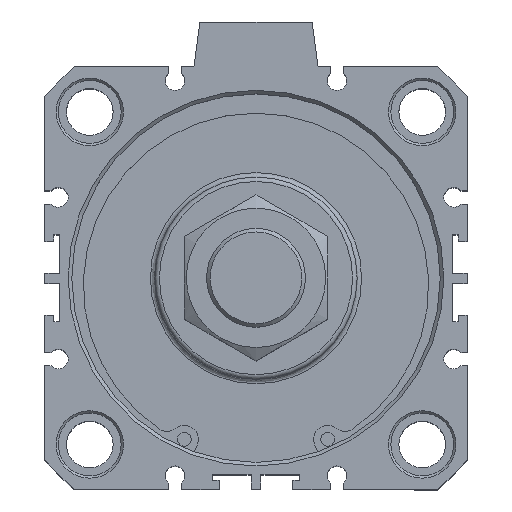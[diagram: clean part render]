
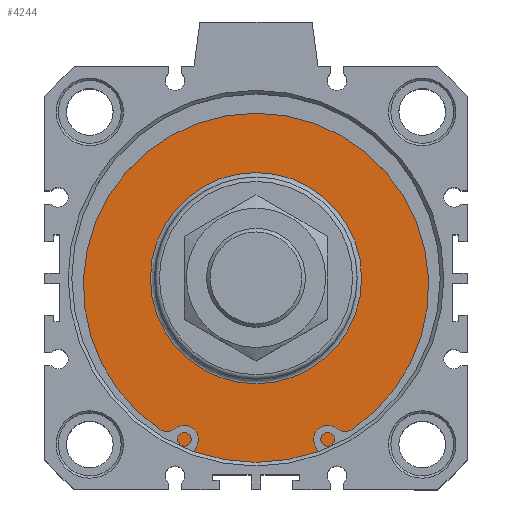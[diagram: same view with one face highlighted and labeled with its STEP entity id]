
A CAD part, top view. The second image highlights one B-rep face of the part: STEP entity #4244.
In plain terms, the highlighted planar face has unit normal (0, 0, 1).
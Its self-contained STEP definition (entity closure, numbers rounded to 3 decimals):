
#4193=CARTESIAN_POINT('',(2.632,21.227,75.6));
#4194=VERTEX_POINT('',#4193);
#4195=CARTESIAN_POINT('',(2.632,-2.273,75.6));
#4196=DIRECTION('',(0.0,0.0,1.0));
#4197=DIRECTION('',(0.0,-1.0,0.0));
#4198=AXIS2_PLACEMENT_3D('',#4195,#4196,#4197);
#4199=CIRCLE('',#4198,23.5);
#4200=EDGE_CURVE('',#4194,#4194,#4199,.T.);
#4225=CARTESIAN_POINT('',(2.632,29.477,75.6));
#4226=DIRECTION('',(0.0,0.0,1.0));
#4227=DIRECTION('',(1.0,0.0,0.0));
#4228=AXIS2_PLACEMENT_3D('',#4225,#4226,#4227);
#4229=PLANE('',#4228);
#4230=CARTESIAN_POINT('',(2.632,38.727,75.6));
#4231=VERTEX_POINT('',#4230);
#4232=CARTESIAN_POINT('',(2.632,-2.273,75.6));
#4233=DIRECTION('',(0.0,0.0,-1.0));
#4234=DIRECTION('',(0.0,1.0,0.0));
#4235=AXIS2_PLACEMENT_3D('',#4232,#4233,#4234);
#4236=CIRCLE('',#4235,41.);
#4237=EDGE_CURVE('',#4231,#4231,#4236,.T.);
#4238=ORIENTED_EDGE('',*,*,#4237,.F.);
#4239=EDGE_LOOP('',(#4238));
#4240=FACE_OUTER_BOUND('',#4239,.T.);
#4241=ORIENTED_EDGE('',*,*,#4200,.F.);
#4242=EDGE_LOOP('',(#4241));
#4243=FACE_BOUND('',#4242,.T.);
#4244=ADVANCED_FACE('',(#4240,#4243),#4229,.T.);
